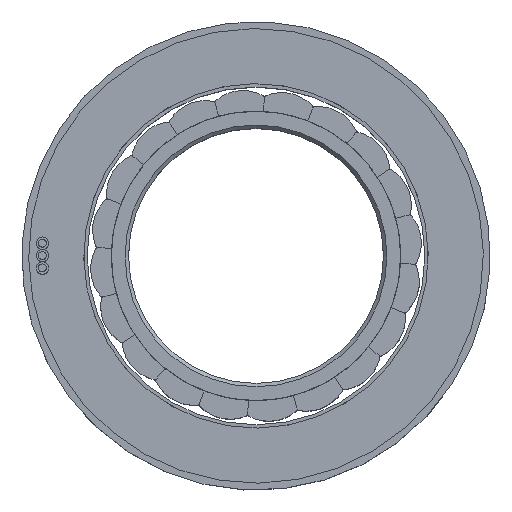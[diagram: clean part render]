
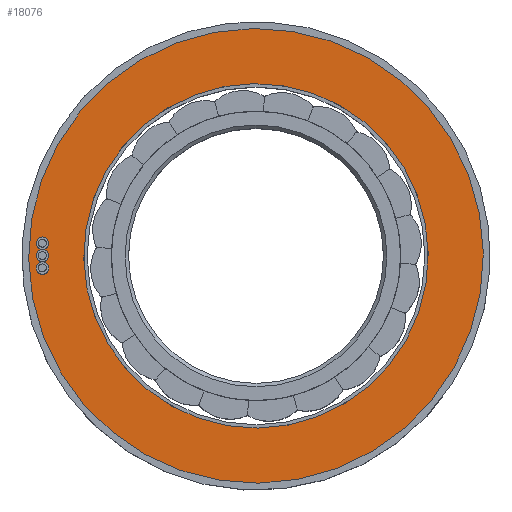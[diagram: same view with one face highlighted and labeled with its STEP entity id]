
A CAD part, top view. The second image highlights one B-rep face of the part: STEP entity #18076.
In plain terms, the highlighted planar face has unit normal (0, 0, 1).
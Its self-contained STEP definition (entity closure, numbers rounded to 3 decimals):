
#182 = FACE_OUTER_BOUND ( 'NONE', #23223, .T. ) ;
#1388 = DIRECTION ( 'NONE',  ( 0., 0., 1. ) ) ;
#1994 = CARTESIAN_POINT ( 'NONE',  ( 28.785, -16.137, 19.5 ) ) ;
#2958 = AXIS2_PLACEMENT_3D ( 'NONE', #26119, #11422, #18575 ) ;
#5634 = AXIS2_PLACEMENT_3D ( 'NONE', #5973, #10979, #27258 ) ;
#5924 = ORIENTED_EDGE ( 'NONE', *, *, #16400, .T. ) ;
#5973 = CARTESIAN_POINT ( 'NONE',  ( 0., 0., 19.5 ) ) ;
#8294 = DIRECTION ( 'NONE',  ( 0.872, -0.489, 0. ) ) ;
#9739 = FACE_BOUND ( 'NONE', #11254, .T. ) ;
#10979 = DIRECTION ( 'NONE',  ( 0., 0., 1. ) ) ;
#11254 = EDGE_LOOP ( 'NONE', ( #25254 ) ) ;
#11422 = DIRECTION ( 'NONE',  ( 0., 0., 1. ) ) ;
#13931 = EDGE_CURVE ( 'NONE', #27528, #27528, #15606, .T. ) ;
#15606 = CIRCLE ( 'NONE', #22128, 25. ) ;
#16400 = EDGE_CURVE ( 'NONE', #22948, #22948, #28910, .T. ) ;
#18076 = ADVANCED_FACE ( 'NONE', ( #182, #9739 ), #19272, .T. ) ;
#18575 = DIRECTION ( 'NONE',  ( 0.872, -0.489, 0. ) ) ;
#19272 = PLANE ( 'NONE',  #5634 ) ;
#20897 = CARTESIAN_POINT ( 'NONE',  ( 21.807, -12.225, 19.5 ) ) ;
#22128 = AXIS2_PLACEMENT_3D ( 'NONE', #30283, #1388, #8294 ) ;
#22948 = VERTEX_POINT ( 'NONE', #1994 ) ;
#23223 = EDGE_LOOP ( 'NONE', ( #5924 ) ) ;
#25254 = ORIENTED_EDGE ( 'NONE', *, *, #13931, .F. ) ;
#26119 = CARTESIAN_POINT ( 'NONE',  ( 0., 0., 19.5 ) ) ;
#27258 = DIRECTION ( 'NONE',  ( 0.872, -0.489, 0. ) ) ;
#27528 = VERTEX_POINT ( 'NONE', #20897 ) ;
#28910 = CIRCLE ( 'NONE', #2958, 33. ) ;
#30283 = CARTESIAN_POINT ( 'NONE',  ( 0., 0., 19.5 ) ) ;
